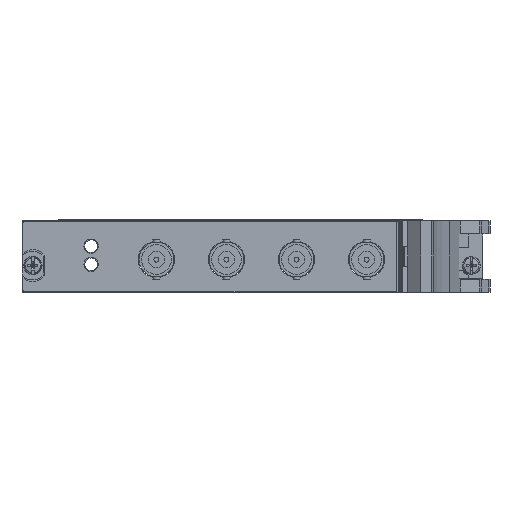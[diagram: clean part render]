
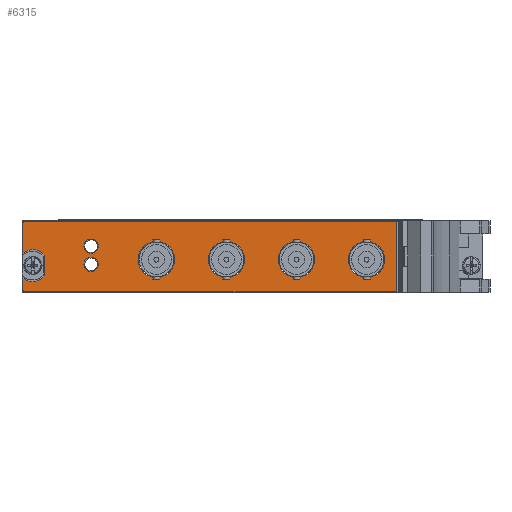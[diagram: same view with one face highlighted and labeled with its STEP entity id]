
A CAD part, left-side view. The second image highlights one B-rep face of the part: STEP entity #6315.
In plain terms, the highlighted planar face has unit normal (-1, 0, 0).
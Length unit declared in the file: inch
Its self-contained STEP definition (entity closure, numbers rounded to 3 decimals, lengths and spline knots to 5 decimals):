
#1141=CARTESIAN_POINT('',(-0.12,4.42,0.758));
#1142=DIRECTION('',(-1.,0.,0.));
#1143=DIRECTION('',(0.,0.,1.));
#1144=AXIS2_PLACEMENT_3D('',#1141,#1142,#1143);
#1146=DIRECTION('',(0.,1.,0.));
#1147=VECTOR('',#1146,4.07);
#1148=CARTESIAN_POINT('',(-0.12,0.35,0.778));
#1149=LINE('',#1148,#1147);
#1150=CARTESIAN_POINT('',(-0.12,0.35,0.758));
#1151=DIRECTION('',(-1.,0.,0.));
#1152=DIRECTION('',(0.,-1.,0.));
#1153=AXIS2_PLACEMENT_3D('',#1150,#1151,#1152);
#1155=DIRECTION('',(0.,0.,1.));
#1156=VECTOR('',#1155,0.728);
#1157=CARTESIAN_POINT('',(-0.12,0.33,0.03));
#1158=LINE('',#1157,#1156);
#1159=CARTESIAN_POINT('',(-0.12,0.35,0.03));
#1160=DIRECTION('',(-1.,0.,0.));
#1161=DIRECTION('',(0.,0.,-1.));
#1162=AXIS2_PLACEMENT_3D('',#1159,#1160,#1161);
#1164=DIRECTION('',(0.,-1.,0.));
#1165=VECTOR('',#1164,4.07);
#1166=CARTESIAN_POINT('',(-0.12,4.42,0.01));
#1167=LINE('',#1166,#1165);
#1168=CARTESIAN_POINT('',(-0.12,4.42,0.03));
#1169=DIRECTION('',(-1.,0.,0.));
#1170=DIRECTION('',(0.,1.,0.));
#1171=AXIS2_PLACEMENT_3D('',#1168,#1169,#1170);
#1173=DIRECTION('',(0.,0.,-1.));
#1174=VECTOR('',#1173,0.1263);
#1175=CARTESIAN_POINT('',(-0.12,4.44,0.1563));
#1176=LINE('',#1175,#1174);
#1177=CARTESIAN_POINT('',(-0.12,4.332,0.294));
#1178=DIRECTION('',(1.,0.,0.));
#1179=DIRECTION('',(0.,-0.76,-0.65));
#1180=AXIS2_PLACEMENT_3D('',#1177,#1178,#1179);
#1182=DIRECTION('',(0.,0.,-1.));
#1183=VECTOR('',#1182,0.22747);
#1184=CARTESIAN_POINT('',(-0.12,4.199,0.40774));
#1185=LINE('',#1184,#1183);
#1186=CARTESIAN_POINT('',(-0.12,4.332,0.294));
#1187=DIRECTION('',(1.,0.,0.));
#1188=DIRECTION('',(0.,0.617,0.787));
#1189=AXIS2_PLACEMENT_3D('',#1186,#1187,#1188);
#1191=DIRECTION('',(0.,0.,-1.));
#1192=VECTOR('',#1191,0.3263);
#1193=CARTESIAN_POINT('',(-0.12,4.44,0.758));
#1194=LINE('',#1193,#1192);
#1195=CARTESIAN_POINT('',(-0.12,3.691,0.508));
#1196=DIRECTION('',(-1.,0.,0.));
#1197=DIRECTION('',(0.,-1.,0.));
#1198=AXIS2_PLACEMENT_3D('',#1195,#1196,#1197);
#1200=CARTESIAN_POINT('',(-0.12,3.691,0.508));
#1201=DIRECTION('',(-1.,0.,0.));
#1202=DIRECTION('',(0.,1.,0.));
#1203=AXIS2_PLACEMENT_3D('',#1200,#1201,#1202);
#1205=CARTESIAN_POINT('',(-0.12,3.691,0.308));
#1206=DIRECTION('',(-1.,0.,0.));
#1207=DIRECTION('',(0.,-1.,0.));
#1208=AXIS2_PLACEMENT_3D('',#1205,#1206,#1207);
#1210=CARTESIAN_POINT('',(-0.12,3.691,0.308));
#1211=DIRECTION('',(-1.,0.,0.));
#1212=DIRECTION('',(0.,1.,0.));
#1213=AXIS2_PLACEMENT_3D('',#1210,#1211,#1212);
#1215=CARTESIAN_POINT('',(-0.12,0.664,0.361));
#1216=DIRECTION('',(-1.,0.,0.));
#1217=DIRECTION('',(0.,0.,1.));
#1218=AXIS2_PLACEMENT_3D('',#1215,#1216,#1217);
#1220=CARTESIAN_POINT('',(-0.12,0.664,0.361));
#1221=DIRECTION('',(-1.,0.,0.));
#1222=DIRECTION('',(0.,0.,-1.));
#1223=AXIS2_PLACEMENT_3D('',#1220,#1221,#1222);
#1225=CARTESIAN_POINT('',(-0.12,1.434,0.361));
#1226=DIRECTION('',(-1.,0.,0.));
#1227=DIRECTION('',(0.,0.,1.));
#1228=AXIS2_PLACEMENT_3D('',#1225,#1226,#1227);
#1230=CARTESIAN_POINT('',(-0.12,1.434,0.361));
#1231=DIRECTION('',(-1.,0.,0.));
#1232=DIRECTION('',(0.,0.,-1.));
#1233=AXIS2_PLACEMENT_3D('',#1230,#1231,#1232);
#1235=CARTESIAN_POINT('',(-0.12,2.204,0.361));
#1236=DIRECTION('',(-1.,0.,0.));
#1237=DIRECTION('',(0.,0.,1.));
#1238=AXIS2_PLACEMENT_3D('',#1235,#1236,#1237);
#1240=CARTESIAN_POINT('',(-0.12,2.204,0.361));
#1241=DIRECTION('',(-1.,0.,0.));
#1242=DIRECTION('',(0.,0.,-1.));
#1243=AXIS2_PLACEMENT_3D('',#1240,#1241,#1242);
#1245=CARTESIAN_POINT('',(-0.12,2.974,0.361));
#1246=DIRECTION('',(-1.,0.,0.));
#1247=DIRECTION('',(0.,0.,1.));
#1248=AXIS2_PLACEMENT_3D('',#1245,#1246,#1247);
#1250=CARTESIAN_POINT('',(-0.12,2.974,0.361));
#1251=DIRECTION('',(-1.,0.,0.));
#1252=DIRECTION('',(0.,0.,-1.));
#1253=AXIS2_PLACEMENT_3D('',#1250,#1251,#1252);
#4059=CARTESIAN_POINT('',(-0.12,4.42,0.778));
#4060=CARTESIAN_POINT('',(-0.12,4.44,0.758));
#4061=VERTEX_POINT('',#4059);
#4062=VERTEX_POINT('',#4060);
#4063=CARTESIAN_POINT('',(-0.12,4.44,0.4317));
#4064=VERTEX_POINT('',#4063);
#4065=CARTESIAN_POINT('',(-0.12,4.199,0.40774));
#4066=VERTEX_POINT('',#4065);
#4067=CARTESIAN_POINT('',(-0.12,4.199,0.18026));
#4068=VERTEX_POINT('',#4067);
#4069=CARTESIAN_POINT('',(-0.12,4.44,0.1563));
#4070=VERTEX_POINT('',#4069);
#4071=CARTESIAN_POINT('',(-0.12,4.44,0.03));
#4072=VERTEX_POINT('',#4071);
#4073=CARTESIAN_POINT('',(-0.12,4.42,0.01));
#4074=VERTEX_POINT('',#4073);
#4075=CARTESIAN_POINT('',(-0.12,0.35,0.01));
#4076=VERTEX_POINT('',#4075);
#4077=CARTESIAN_POINT('',(-0.12,0.33,0.03));
#4078=VERTEX_POINT('',#4077);
#4079=CARTESIAN_POINT('',(-0.12,0.33,0.758));
#4080=VERTEX_POINT('',#4079);
#4081=CARTESIAN_POINT('',(-0.12,0.35,0.778));
#4082=VERTEX_POINT('',#4081);
#4083=CARTESIAN_POINT('',(-0.12,3.6125,0.508));
#4084=CARTESIAN_POINT('',(-0.12,3.7695,0.508));
#4085=VERTEX_POINT('',#4083);
#4086=VERTEX_POINT('',#4084);
#4087=CARTESIAN_POINT('',(-0.12,3.6125,0.308));
#4088=CARTESIAN_POINT('',(-0.12,3.7695,0.308));
#4089=VERTEX_POINT('',#4087);
#4090=VERTEX_POINT('',#4088);
#4107=CARTESIAN_POINT('',(-0.12,0.664,0.561));
#4108=CARTESIAN_POINT('',(-0.12,0.664,0.161));
#4109=VERTEX_POINT('',#4107);
#4110=VERTEX_POINT('',#4108);
#4111=CARTESIAN_POINT('',(-0.12,1.434,0.561));
#4112=CARTESIAN_POINT('',(-0.12,1.434,0.161));
#4113=VERTEX_POINT('',#4111);
#4114=VERTEX_POINT('',#4112);
#4115=CARTESIAN_POINT('',(-0.12,2.204,0.561));
#4116=CARTESIAN_POINT('',(-0.12,2.204,0.161));
#4117=VERTEX_POINT('',#4115);
#4118=VERTEX_POINT('',#4116);
#4119=CARTESIAN_POINT('',(-0.12,2.974,0.561));
#4120=CARTESIAN_POINT('',(-0.12,2.974,0.161));
#4121=VERTEX_POINT('',#4119);
#4122=VERTEX_POINT('',#4120);
#6260=CARTESIAN_POINT('',(-0.12,4.332,0.294));
#6261=DIRECTION('',(-1.,0.,0.));
#6262=DIRECTION('',(0.,0.,1.));
#6263=AXIS2_PLACEMENT_3D('',#6260,#6261,#6262);
#6264=PLANE('',#6263);
#6265=ORIENTED_EDGE('',*,*,#6241,.F.);
#6266=ORIENTED_EDGE('',*,*,#6254,.F.);
#6267=ORIENTED_EDGE('',*,*,#6098,.F.);
#6268=ORIENTED_EDGE('',*,*,#6114,.F.);
#6269=ORIENTED_EDGE('',*,*,#6128,.F.);
#6270=ORIENTED_EDGE('',*,*,#6142,.F.);
#6271=ORIENTED_EDGE('',*,*,#6156,.F.);
#6272=ORIENTED_EDGE('',*,*,#6170,.F.);
#6273=ORIENTED_EDGE('',*,*,#6184,.F.);
#6274=ORIENTED_EDGE('',*,*,#6198,.F.);
#6275=ORIENTED_EDGE('',*,*,#6212,.F.);
#6276=ORIENTED_EDGE('',*,*,#6226,.F.);
#6277=EDGE_LOOP('',(#6265,#6266,#6267,#6268,#6269,#6270,#6271,#6272,#6273,#6274,
#6275,#6276));
#6278=FACE_OUTER_BOUND('',#6277,.F.);
#6280=ORIENTED_EDGE('',*,*,#6279,.T.);
#6282=ORIENTED_EDGE('',*,*,#6281,.T.);
#6283=EDGE_LOOP('',(#6280,#6282));
#6284=FACE_BOUND('',#6283,.F.);
#6286=ORIENTED_EDGE('',*,*,#6285,.T.);
#6288=ORIENTED_EDGE('',*,*,#6287,.T.);
#6289=EDGE_LOOP('',(#6286,#6288));
#6290=FACE_BOUND('',#6289,.F.);
#6292=ORIENTED_EDGE('',*,*,#6291,.T.);
#6294=ORIENTED_EDGE('',*,*,#6293,.T.);
#6295=EDGE_LOOP('',(#6292,#6294));
#6296=FACE_BOUND('',#6295,.F.);
#6298=ORIENTED_EDGE('',*,*,#6297,.T.);
#6300=ORIENTED_EDGE('',*,*,#6299,.T.);
#6301=EDGE_LOOP('',(#6298,#6300));
#6302=FACE_BOUND('',#6301,.F.);
#6304=ORIENTED_EDGE('',*,*,#6303,.T.);
#6306=ORIENTED_EDGE('',*,*,#6305,.T.);
#6307=EDGE_LOOP('',(#6304,#6306));
#6308=FACE_BOUND('',#6307,.F.);
#6310=ORIENTED_EDGE('',*,*,#6309,.T.);
#6312=ORIENTED_EDGE('',*,*,#6311,.T.);
#6313=EDGE_LOOP('',(#6310,#6312));
#6314=FACE_BOUND('',#6313,.F.);
#6315=ADVANCED_FACE('',(#6278,#6284,#6290,#6296,#6302,#6308,#6314),#6264,.T.);
#1145=CIRCLE('',#1144,0.02);
#1154=CIRCLE('',#1153,0.02);
#1163=CIRCLE('',#1162,0.02);
#1172=CIRCLE('',#1171,0.02);
#1181=CIRCLE('',#1180,0.175);
#1190=CIRCLE('',#1189,0.175);
#1199=CIRCLE('',#1198,0.0785);
#1204=CIRCLE('',#1203,0.0785);
#1209=CIRCLE('',#1208,0.0785);
#1214=CIRCLE('',#1213,0.0785);
#1219=CIRCLE('',#1218,0.2);
#1224=CIRCLE('',#1223,0.2);
#1229=CIRCLE('',#1228,0.2);
#1234=CIRCLE('',#1233,0.2);
#1239=CIRCLE('',#1238,0.2);
#1244=CIRCLE('',#1243,0.2);
#1249=CIRCLE('',#1248,0.2);
#1254=CIRCLE('',#1253,0.2);
#6098=EDGE_CURVE('',#4080,#4082,#1154,.T.);
#6114=EDGE_CURVE('',#4078,#4080,#1158,.T.);
#6128=EDGE_CURVE('',#4076,#4078,#1163,.T.);
#6142=EDGE_CURVE('',#4074,#4076,#1167,.T.);
#6156=EDGE_CURVE('',#4072,#4074,#1172,.T.);
#6170=EDGE_CURVE('',#4070,#4072,#1176,.T.);
#6184=EDGE_CURVE('',#4068,#4070,#1181,.T.);
#6198=EDGE_CURVE('',#4066,#4068,#1185,.T.);
#6212=EDGE_CURVE('',#4064,#4066,#1190,.T.);
#6226=EDGE_CURVE('',#4062,#4064,#1194,.T.);
#6241=EDGE_CURVE('',#4061,#4062,#1145,.T.);
#6254=EDGE_CURVE('',#4082,#4061,#1149,.T.);
#6279=EDGE_CURVE('',#4085,#4086,#1199,.T.);
#6281=EDGE_CURVE('',#4086,#4085,#1204,.T.);
#6285=EDGE_CURVE('',#4089,#4090,#1209,.T.);
#6287=EDGE_CURVE('',#4090,#4089,#1214,.T.);
#6291=EDGE_CURVE('',#4109,#4110,#1219,.T.);
#6293=EDGE_CURVE('',#4110,#4109,#1224,.T.);
#6297=EDGE_CURVE('',#4113,#4114,#1229,.T.);
#6299=EDGE_CURVE('',#4114,#4113,#1234,.T.);
#6303=EDGE_CURVE('',#4117,#4118,#1239,.T.);
#6305=EDGE_CURVE('',#4118,#4117,#1244,.T.);
#6309=EDGE_CURVE('',#4121,#4122,#1249,.T.);
#6311=EDGE_CURVE('',#4122,#4121,#1254,.T.);
